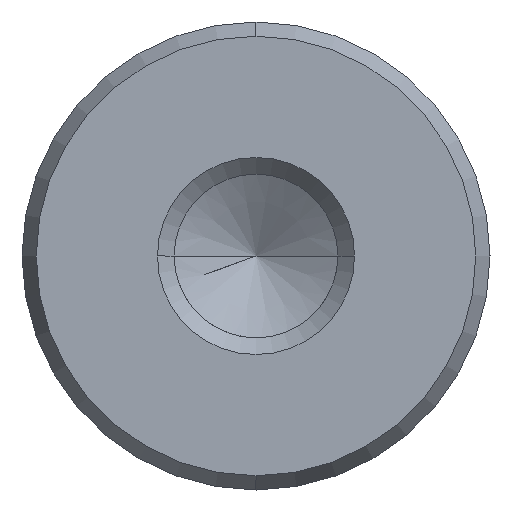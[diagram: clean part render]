
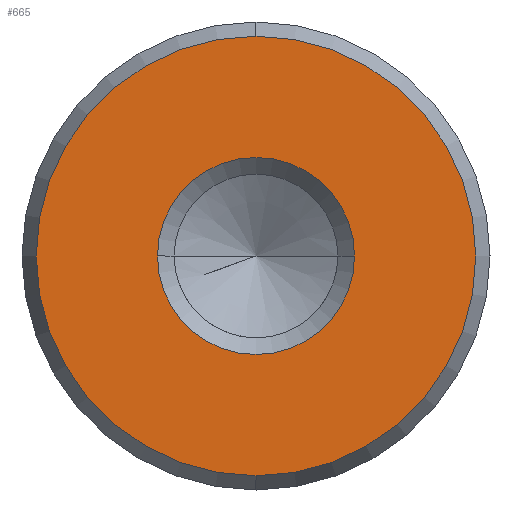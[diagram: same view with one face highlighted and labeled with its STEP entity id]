
A CAD part, left-side view. The second image highlights one B-rep face of the part: STEP entity #665.
In plain terms, the highlighted planar face has unit normal (-1, 0, 0).
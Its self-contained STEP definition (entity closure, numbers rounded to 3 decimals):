
#579=CARTESIAN_POINT('Vertex',(0.,0.,-8.923)) ;
#582=CARTESIAN_POINT('Axis2P3D Location',(0.,0.,0.)) ;
#586=CARTESIAN_POINT('Vertex',(0.,8.923,0.)) ;
#589=CARTESIAN_POINT('Axis2P3D Location',(0.,0.,0.)) ;
#593=CARTESIAN_POINT('Vertex',(0.,0.,8.923)) ;
#615=CARTESIAN_POINT('Axis2P3D Location',(0.,0.,0.)) ;
#619=CARTESIAN_POINT('Vertex',(0.,-8.923,0.)) ;
#622=CARTESIAN_POINT('Axis2P3D Location',(0.,0.,0.)) ;
#636=CARTESIAN_POINT('Axis2P3D Location',(0.,0.,0.)) ;
#647=CARTESIAN_POINT('Axis2P3D Location',(0.,0.,0.)) ;
#651=CARTESIAN_POINT('Vertex',(0.,4.,0.)) ;
#653=CARTESIAN_POINT('Vertex',(0.,-4.,0.)) ;
#656=CARTESIAN_POINT('Axis2P3D Location',(0.,0.,0.)) ;
#583=DIRECTION('Axis2P3D Direction',(1.,0.,-0.)) ;
#590=DIRECTION('Axis2P3D Direction',(1.,0.,-0.)) ;
#616=DIRECTION('Axis2P3D Direction',(1.,0.,-0.)) ;
#623=DIRECTION('Axis2P3D Direction',(1.,0.,-0.)) ;
#637=DIRECTION('Axis2P3D Direction',(1.,0.,-0.)) ;
#638=DIRECTION('Axis2P3D XDirection',(-0.,0.,-1.)) ;
#648=DIRECTION('Axis2P3D Direction',(1.,0.,-0.)) ;
#657=DIRECTION('Axis2P3D Direction',(1.,0.,-0.)) ;
#584=AXIS2_PLACEMENT_3D('Circle Axis2P3D',#582,#583,$) ;
#591=AXIS2_PLACEMENT_3D('Circle Axis2P3D',#589,#590,$) ;
#617=AXIS2_PLACEMENT_3D('Circle Axis2P3D',#615,#616,$) ;
#624=AXIS2_PLACEMENT_3D('Circle Axis2P3D',#622,#623,$) ;
#639=AXIS2_PLACEMENT_3D('Plane Axis2P3D',#636,#637,#638) ;
#649=AXIS2_PLACEMENT_3D('Circle Axis2P3D',#647,#648,$) ;
#658=AXIS2_PLACEMENT_3D('Circle Axis2P3D',#656,#657,$) ;
#642=ORIENTED_EDGE('',*,*,#588,.F.) ;
#643=ORIENTED_EDGE('',*,*,#626,.F.) ;
#644=ORIENTED_EDGE('',*,*,#621,.F.) ;
#645=ORIENTED_EDGE('',*,*,#595,.F.) ;
#662=ORIENTED_EDGE('',*,*,#655,.T.) ;
#663=ORIENTED_EDGE('',*,*,#660,.T.) ;
#664=FACE_BOUND('',#661,.T.) ;
#665=ADVANCED_FACE('720-19x112',(#646,#664),#640,.F.) ;
#585=CIRCLE('generated circle',#584,8.923) ;
#592=CIRCLE('generated circle',#591,8.923) ;
#618=CIRCLE('generated circle',#617,8.923) ;
#625=CIRCLE('generated circle',#624,8.923) ;
#650=CIRCLE('generated circle',#649,4.) ;
#659=CIRCLE('generated circle',#658,4.) ;
#588=EDGE_CURVE('',#580,#587,#585,.T.) ;
#595=EDGE_CURVE('',#587,#594,#592,.T.) ;
#621=EDGE_CURVE('',#594,#620,#618,.T.) ;
#626=EDGE_CURVE('',#620,#580,#625,.T.) ;
#655=EDGE_CURVE('',#652,#654,#650,.T.) ;
#660=EDGE_CURVE('',#654,#652,#659,.T.) ;
#641=EDGE_LOOP('',(#642,#643,#644,#645)) ;
#661=EDGE_LOOP('',(#662,#663)) ;
#646=FACE_OUTER_BOUND('',#641,.T.) ;
#640=PLANE('Plane',#639) ;
#580=VERTEX_POINT('',#579) ;
#587=VERTEX_POINT('',#586) ;
#594=VERTEX_POINT('',#593) ;
#620=VERTEX_POINT('',#619) ;
#652=VERTEX_POINT('',#651) ;
#654=VERTEX_POINT('',#653) ;
